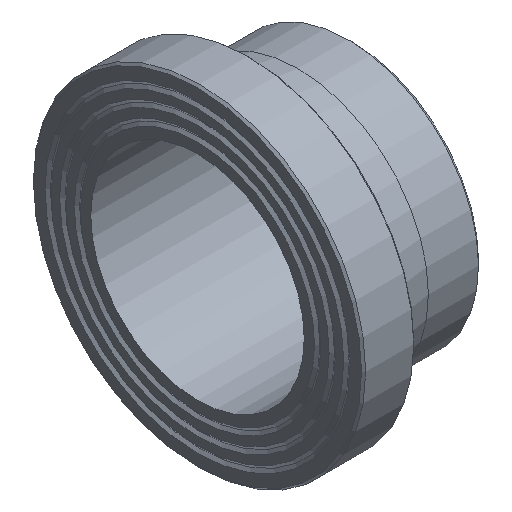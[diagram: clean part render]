
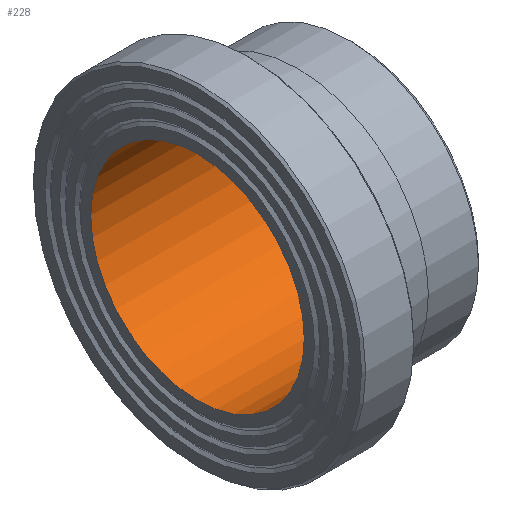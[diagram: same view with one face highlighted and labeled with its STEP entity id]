
A CAD part, isometric view. The second image highlights one B-rep face of the part: STEP entity #228.
In plain terms, the highlighted cylindrical face has radius 51.1 mm (diameter 102.2 mm), a full revolution.
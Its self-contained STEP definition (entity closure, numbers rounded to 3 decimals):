
#33=CYLINDRICAL_SURFACE('',#274,51.1);
#50=ORIENTED_EDGE('',*,*,#79,.F.);
#51=ORIENTED_EDGE('',*,*,#76,.T.);
#76=EDGE_CURVE('',#96,#96,#116,.T.);
#79=EDGE_CURVE('',#99,#99,#119,.T.);
#96=VERTEX_POINT('',#383);
#99=VERTEX_POINT('',#390);
#116=CIRCLE('',#257,51.1);
#119=CIRCLE('',#261,51.1);
#150=EDGE_LOOP('',(#50));
#151=EDGE_LOOP('',(#51));
#190=FACE_BOUND('',#150,.T.);
#191=FACE_BOUND('',#151,.T.);
#228=ADVANCED_FACE('',(#190,#191),#33,.F.);
#257=AXIS2_PLACEMENT_3D('',#382,#303,#304);
#261=AXIS2_PLACEMENT_3D('',#389,#311,#312);
#274=AXIS2_PLACEMENT_3D('',#410,#337,#338);
#303=DIRECTION('',(-1.,0.,0.));
#304=DIRECTION('',(0.,0.,1.));
#311=DIRECTION('',(-1.,0.,0.));
#312=DIRECTION('',(0.,0.,1.));
#337=DIRECTION('',(-1.,0.,0.));
#338=DIRECTION('',(0.,0.,1.));
#382=CARTESIAN_POINT('',(0.,0.,0.));
#383=CARTESIAN_POINT('',(0.,0.,51.1));
#389=CARTESIAN_POINT('',(74.,0.,0.));
#390=CARTESIAN_POINT('',(74.,0.,51.1));
#410=CARTESIAN_POINT('',(60.,0.,0.));
